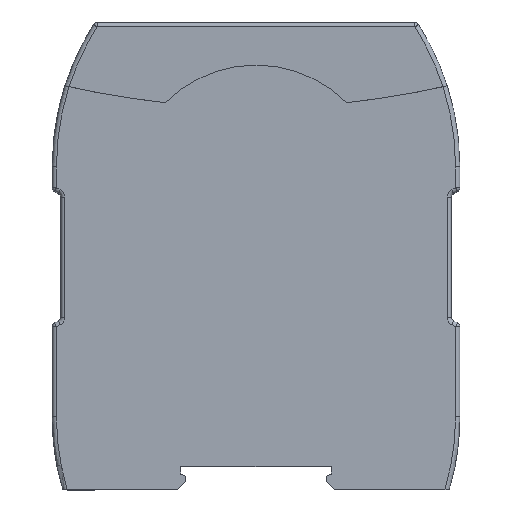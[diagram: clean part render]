
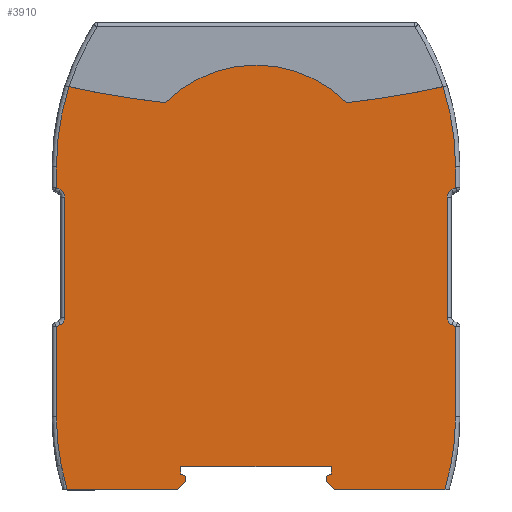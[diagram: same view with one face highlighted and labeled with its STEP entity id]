
A CAD part, top view. The second image highlights one B-rep face of the part: STEP entity #3910.
In plain terms, the highlighted planar face has unit normal (0, 0, 1).
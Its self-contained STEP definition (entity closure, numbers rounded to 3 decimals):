
#659=CARTESIAN_POINT('',(12.,17.139,45.));
#660=DIRECTION('',(0.,0.,1.));
#661=DIRECTION('',(-1.,0.,0.));
#662=AXIS2_PLACEMENT_3D('',#659,#660,#661);
#667=DIRECTION('',(0.,-1.,0.));
#668=VECTOR('',#667,21.243);
#669=CARTESIAN_POINT('',(-47.,38.382,45.));
#670=LINE('',#669,#668);
#674=DIRECTION('',(-0.894,-0.447,0.));
#675=VECTOR('',#674,1.);
#676=CARTESIAN_POINT('',(-46.106,38.829,45.));
#677=LINE('',#676,#675);
#681=CARTESIAN_POINT('',(-47.,40.618,45.));
#682=DIRECTION('',(0.,0.,-1.));
#683=DIRECTION('',(1.,0.,0.));
#684=AXIS2_PLACEMENT_3D('',#681,#682,#683);
#689=DIRECTION('',(0.,-1.,0.));
#690=VECTOR('',#689,28.264);
#691=CARTESIAN_POINT('',(-45.,68.882,45.));
#692=LINE('',#691,#690);
#696=CARTESIAN_POINT('',(-47.,68.882,45.));
#697=DIRECTION('',(0.,0.,-1.));
#698=DIRECTION('',(0.447,0.894,0.));
#699=AXIS2_PLACEMENT_3D('',#696,#697,#698);
#704=DIRECTION('',(0.894,-0.447,0.));
#705=VECTOR('',#704,1.);
#706=CARTESIAN_POINT('',(-47.,71.118,45.));
#707=LINE('',#706,#705);
#711=DIRECTION('',(0.,-1.,0.));
#712=VECTOR('',#711,4.882);
#713=CARTESIAN_POINT('',(-47.,76.,45.));
#714=LINE('',#713,#712);
#718=CARTESIAN_POINT('',(14.531,76.,45.));
#719=DIRECTION('',(0.,0.,1.));
#720=DIRECTION('',(-0.952,0.307,0.));
#721=AXIS2_PLACEMENT_3D('',#718,#719,#720);
#726=CARTESIAN_POINT('',(0.,290.,45.));
#727=DIRECTION('',(0.,0.,1.));
#728=DIRECTION('',(-0.22,-0.975,0.));
#729=AXIS2_PLACEMENT_3D('',#726,#727,#728);
#734=CARTESIAN_POINT('',(0.,70.,45.));
#735=DIRECTION('',(0.,0.,1.));
#736=DIRECTION('',(0.71,0.705,0.));
#737=AXIS2_PLACEMENT_3D('',#734,#735,#736);
#742=CARTESIAN_POINT('',(0.,290.,45.));
#743=DIRECTION('',(0.,0.,1.));
#744=DIRECTION('',(0.106,-0.994,0.));
#745=AXIS2_PLACEMENT_3D('',#742,#743,#744);
#750=CARTESIAN_POINT('',(-14.531,76.,45.));
#751=DIRECTION('',(0.,0.,1.));
#752=DIRECTION('',(1.,0.,0.));
#753=AXIS2_PLACEMENT_3D('',#750,#751,#752);
#758=DIRECTION('',(0.,1.,0.));
#759=VECTOR('',#758,4.882);
#760=CARTESIAN_POINT('',(47.,71.118,45.));
#761=LINE('',#760,#759);
#765=DIRECTION('',(0.894,0.447,0.));
#766=VECTOR('',#765,1.);
#767=CARTESIAN_POINT('',(46.106,70.671,45.));
#768=LINE('',#767,#766);
#772=CARTESIAN_POINT('',(47.,68.882,45.));
#773=DIRECTION('',(0.,0.,-1.));
#774=DIRECTION('',(-1.,0.,0.));
#775=AXIS2_PLACEMENT_3D('',#772,#773,#774);
#780=DIRECTION('',(0.,1.,0.));
#781=VECTOR('',#780,28.264);
#782=CARTESIAN_POINT('',(45.,40.618,45.));
#783=LINE('',#782,#781);
#787=CARTESIAN_POINT('',(47.,40.618,45.));
#788=DIRECTION('',(0.,0.,-1.));
#789=DIRECTION('',(-0.447,-0.894,0.));
#790=AXIS2_PLACEMENT_3D('',#787,#788,#789);
#795=DIRECTION('',(-0.894,0.447,0.));
#796=VECTOR('',#795,1.);
#797=CARTESIAN_POINT('',(47.,38.382,45.));
#798=LINE('',#797,#796);
#802=DIRECTION('',(0.,1.,0.));
#803=VECTOR('',#802,21.243);
#804=CARTESIAN_POINT('',(47.,17.139,45.));
#805=LINE('',#804,#803);
#809=CARTESIAN_POINT('',(-12.,17.139,45.));
#810=DIRECTION('',(0.,0.,1.));
#811=DIRECTION('',(0.957,-0.29,0.));
#812=AXIS2_PLACEMENT_3D('',#809,#810,#811);
#817=DIRECTION('',(0.707,-0.707,0.));
#818=VECTOR('',#817,2.828);
#819=CARTESIAN_POINT('',(16.5,2.,45.));
#820=LINE('',#819,#818);
#824=DIRECTION('',(0.,-1.,0.));
#825=VECTOR('',#824,1.208);
#826=CARTESIAN_POINT('',(16.5,3.208,45.));
#827=LINE('',#826,#825);
#831=DIRECTION('',(-0.94,-0.342,0.));
#832=VECTOR('',#831,1.277);
#833=CARTESIAN_POINT('',(17.7,3.645,45.));
#834=LINE('',#833,#832);
#838=DIRECTION('',(0.,1.,0.));
#839=VECTOR('',#838,1.855);
#840=CARTESIAN_POINT('',(17.7,3.645,45.));
#841=LINE('',#840,#839);
#845=DIRECTION('',(-1.,0.,0.));
#846=VECTOR('',#845,35.4);
#847=CARTESIAN_POINT('',(17.7,5.5,45.));
#848=LINE('',#847,#846);
#852=DIRECTION('',(0.,1.,0.));
#853=VECTOR('',#852,1.855);
#854=CARTESIAN_POINT('',(-17.7,3.645,45.));
#855=LINE('',#854,#853);
#859=DIRECTION('',(-0.94,0.342,0.));
#860=VECTOR('',#859,1.277);
#861=CARTESIAN_POINT('',(-16.5,3.208,45.));
#862=LINE('',#861,#860);
#866=DIRECTION('',(0.,1.,0.));
#867=VECTOR('',#866,1.208);
#868=CARTESIAN_POINT('',(-16.5,2.,45.));
#869=LINE('',#868,#867);
#873=DIRECTION('',(0.707,0.707,0.));
#874=VECTOR('',#873,2.828);
#875=CARTESIAN_POINT('',(-18.5,0.,45.));
#876=LINE('',#875,#874);
#888=CARTESIAN_POINT('',(-44.456,0.,45.));
#901=DIRECTION('',(1.,0.,0.));
#902=VECTOR('',#901,25.956);
#903=CARTESIAN_POINT('',(-44.456,0.,45.));
#904=LINE('',#903,#902);
#943=CARTESIAN_POINT('',(44.456,0.,45.));
#982=DIRECTION('',(1.,0.,0.));
#983=VECTOR('',#982,25.956);
#984=CARTESIAN_POINT('',(18.5,0.,45.));
#985=LINE('',#984,#983);
#3022=CARTESIAN_POINT('',(17.7,5.5,45.));
#3023=CARTESIAN_POINT('',(-17.7,5.5,45.));
#3024=VERTEX_POINT('',#3022);
#3025=VERTEX_POINT('',#3023);
#3038=CARTESIAN_POINT('',(-18.5,0.,45.));
#3039=CARTESIAN_POINT('',(-16.5,2.,45.));
#3040=VERTEX_POINT('',#3038);
#3041=VERTEX_POINT('',#3039);
#3042=CARTESIAN_POINT('',(-16.5,3.208,45.));
#3043=VERTEX_POINT('',#3042);
#3044=CARTESIAN_POINT('',(16.5,3.208,45.));
#3045=CARTESIAN_POINT('',(16.5,2.,45.));
#3046=VERTEX_POINT('',#3044);
#3047=VERTEX_POINT('',#3045);
#3048=CARTESIAN_POINT('',(18.5,0.,45.));
#3049=VERTEX_POINT('',#3048);
#3054=CARTESIAN_POINT('',(-17.7,3.645,45.));
#3055=VERTEX_POINT('',#3054);
#3056=CARTESIAN_POINT('',(17.7,3.645,45.));
#3057=VERTEX_POINT('',#3056);
#3086=CARTESIAN_POINT('',(21.29,91.136,45.));
#3087=CARTESIAN_POINT('',(-21.29,91.136,45.));
#3088=VERTEX_POINT('',#3086);
#3089=VERTEX_POINT('',#3087);
#3226=VERTEX_POINT('',#888);
#3230=CARTESIAN_POINT('',(-47.,17.139,45.));
#3231=VERTEX_POINT('',#3230);
#3232=CARTESIAN_POINT('',(-47.,38.382,45.));
#3233=VERTEX_POINT('',#3232);
#3238=CARTESIAN_POINT('',(-46.106,38.829,45.));
#3239=VERTEX_POINT('',#3238);
#3242=CARTESIAN_POINT('',(-45.,40.618,45.));
#3243=VERTEX_POINT('',#3242);
#3246=CARTESIAN_POINT('',(-45.,68.882,45.));
#3247=VERTEX_POINT('',#3246);
#3250=CARTESIAN_POINT('',(-46.106,70.671,45.));
#3251=VERTEX_POINT('',#3250);
#3254=CARTESIAN_POINT('',(-47.,71.118,45.));
#3255=VERTEX_POINT('',#3254);
#3260=CARTESIAN_POINT('',(-47.,76.,45.));
#3261=VERTEX_POINT('',#3260);
#3264=CARTESIAN_POINT('',(-44.024,94.905,45.));
#3265=VERTEX_POINT('',#3264);
#3292=CARTESIAN_POINT('',(47.,76.,45.));
#3293=CARTESIAN_POINT('',(44.024,94.905,45.));
#3294=VERTEX_POINT('',#3292);
#3295=VERTEX_POINT('',#3293);
#3296=CARTESIAN_POINT('',(47.,71.118,45.));
#3297=VERTEX_POINT('',#3296);
#3302=CARTESIAN_POINT('',(46.106,70.671,45.));
#3303=VERTEX_POINT('',#3302);
#3306=CARTESIAN_POINT('',(45.,68.882,45.));
#3307=VERTEX_POINT('',#3306);
#3310=CARTESIAN_POINT('',(45.,40.618,45.));
#3311=VERTEX_POINT('',#3310);
#3314=CARTESIAN_POINT('',(46.106,38.829,45.));
#3315=VERTEX_POINT('',#3314);
#3318=CARTESIAN_POINT('',(47.,38.382,45.));
#3319=VERTEX_POINT('',#3318);
#3324=CARTESIAN_POINT('',(47.,17.139,45.));
#3325=VERTEX_POINT('',#3324);
#3329=VERTEX_POINT('',#943);
#3842=CARTESIAN_POINT('',(0.,0.,45.));
#3843=DIRECTION('',(0.,0.,1.));
#3844=DIRECTION('',(1.,0.,0.));
#3845=AXIS2_PLACEMENT_3D('',#3842,#3843,#3844);
#3846=PLANE('',#3845);
#3848=ORIENTED_EDGE('',*,*,#3847,.F.);
#3850=ORIENTED_EDGE('',*,*,#3849,.F.);
#3852=ORIENTED_EDGE('',*,*,#3851,.F.);
#3854=ORIENTED_EDGE('',*,*,#3853,.F.);
#3856=ORIENTED_EDGE('',*,*,#3855,.F.);
#3858=ORIENTED_EDGE('',*,*,#3857,.F.);
#3860=ORIENTED_EDGE('',*,*,#3859,.F.);
#3862=ORIENTED_EDGE('',*,*,#3861,.F.);
#3864=ORIENTED_EDGE('',*,*,#3863,.F.);
#3866=ORIENTED_EDGE('',*,*,#3865,.T.);
#3868=ORIENTED_EDGE('',*,*,#3867,.F.);
#3869=ORIENTED_EDGE('',*,*,#3806,.T.);
#3870=ORIENTED_EDGE('',*,*,#3821,.F.);
#3871=ORIENTED_EDGE('',*,*,#3832,.F.);
#3873=ORIENTED_EDGE('',*,*,#3872,.F.);
#3875=ORIENTED_EDGE('',*,*,#3874,.F.);
#3877=ORIENTED_EDGE('',*,*,#3876,.F.);
#3879=ORIENTED_EDGE('',*,*,#3878,.F.);
#3881=ORIENTED_EDGE('',*,*,#3880,.F.);
#3883=ORIENTED_EDGE('',*,*,#3882,.F.);
#3885=ORIENTED_EDGE('',*,*,#3884,.F.);
#3887=ORIENTED_EDGE('',*,*,#3886,.F.);
#3889=ORIENTED_EDGE('',*,*,#3888,.F.);
#3891=ORIENTED_EDGE('',*,*,#3890,.F.);
#3893=ORIENTED_EDGE('',*,*,#3892,.F.);
#3895=ORIENTED_EDGE('',*,*,#3894,.T.);
#3897=ORIENTED_EDGE('',*,*,#3896,.T.);
#3899=ORIENTED_EDGE('',*,*,#3898,.F.);
#3901=ORIENTED_EDGE('',*,*,#3900,.F.);
#3903=ORIENTED_EDGE('',*,*,#3902,.F.);
#3905=ORIENTED_EDGE('',*,*,#3904,.F.);
#3907=ORIENTED_EDGE('',*,*,#3906,.F.);
#3908=EDGE_LOOP('',(#3848,#3850,#3852,#3854,#3856,#3858,#3860,#3862,#3864,#3866,
#3868,#3869,#3870,#3871,#3873,#3875,#3877,#3879,#3881,#3883,#3885,#3887,#3889,
#3891,#3893,#3895,#3897,#3899,#3901,#3903,#3905,#3907));
#3909=FACE_OUTER_BOUND('',#3908,.F.);
#663=CIRCLE('',#662,59.);
#685=CIRCLE('',#684,2.);
#700=CIRCLE('',#699,2.);
#722=CIRCLE('',#721,61.531);
#730=CIRCLE('',#729,200.);
#738=CIRCLE('',#737,30.);
#746=CIRCLE('',#745,200.);
#754=CIRCLE('',#753,61.531);
#776=CIRCLE('',#775,2.);
#791=CIRCLE('',#790,2.);
#813=CIRCLE('',#812,59.);
#3806=EDGE_CURVE('',#3088,#3295,#746,.T.);
#3821=EDGE_CURVE('',#3294,#3295,#754,.T.);
#3832=EDGE_CURVE('',#3297,#3294,#761,.T.);
#3847=EDGE_CURVE('',#3231,#3226,#663,.T.);
#3849=EDGE_CURVE('',#3233,#3231,#670,.T.);
#3851=EDGE_CURVE('',#3239,#3233,#677,.T.);
#3853=EDGE_CURVE('',#3243,#3239,#685,.T.);
#3855=EDGE_CURVE('',#3247,#3243,#692,.T.);
#3857=EDGE_CURVE('',#3251,#3247,#700,.T.);
#3859=EDGE_CURVE('',#3255,#3251,#707,.T.);
#3861=EDGE_CURVE('',#3261,#3255,#714,.T.);
#3863=EDGE_CURVE('',#3265,#3261,#722,.T.);
#3865=EDGE_CURVE('',#3265,#3089,#730,.T.);
#3867=EDGE_CURVE('',#3088,#3089,#738,.T.);
#3872=EDGE_CURVE('',#3303,#3297,#768,.T.);
#3874=EDGE_CURVE('',#3307,#3303,#776,.T.);
#3876=EDGE_CURVE('',#3311,#3307,#783,.T.);
#3878=EDGE_CURVE('',#3315,#3311,#791,.T.);
#3880=EDGE_CURVE('',#3319,#3315,#798,.T.);
#3882=EDGE_CURVE('',#3325,#3319,#805,.T.);
#3884=EDGE_CURVE('',#3329,#3325,#813,.T.);
#3886=EDGE_CURVE('',#3049,#3329,#985,.T.);
#3888=EDGE_CURVE('',#3047,#3049,#820,.T.);
#3890=EDGE_CURVE('',#3046,#3047,#827,.T.);
#3892=EDGE_CURVE('',#3057,#3046,#834,.T.);
#3894=EDGE_CURVE('',#3057,#3024,#841,.T.);
#3896=EDGE_CURVE('',#3024,#3025,#848,.T.);
#3898=EDGE_CURVE('',#3055,#3025,#855,.T.);
#3900=EDGE_CURVE('',#3043,#3055,#862,.T.);
#3902=EDGE_CURVE('',#3041,#3043,#869,.T.);
#3904=EDGE_CURVE('',#3040,#3041,#876,.T.);
#3906=EDGE_CURVE('',#3226,#3040,#904,.T.);
#3910=ADVANCED_FACE('',(#3909),#3846,.T.);
